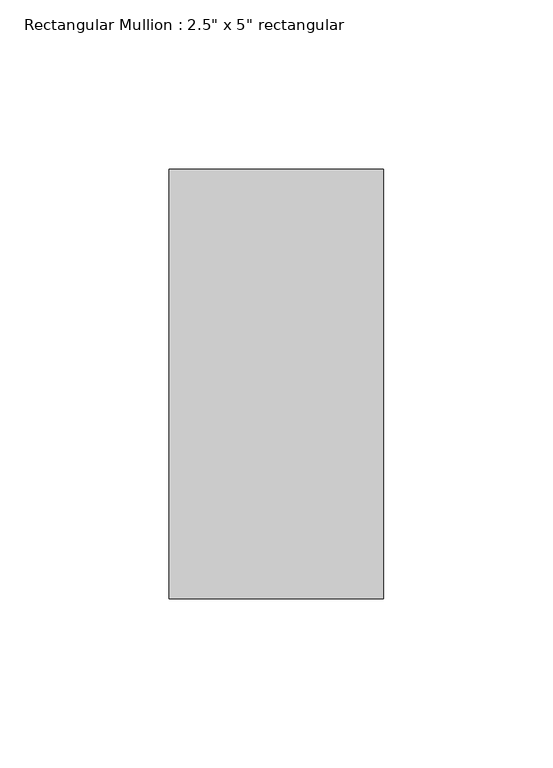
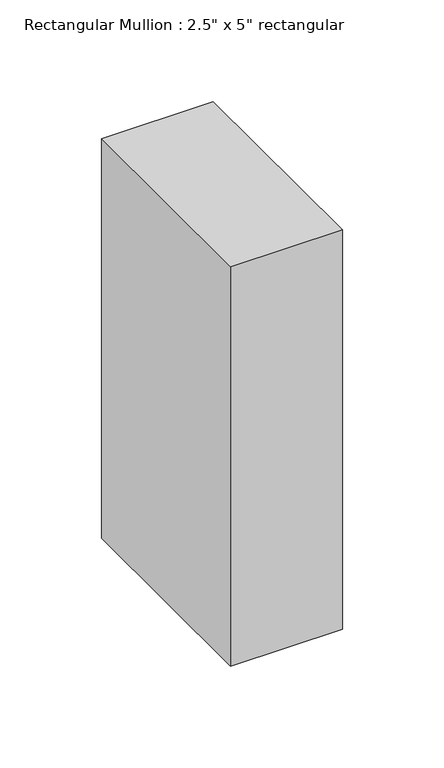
"""IFC4 building model written with IfcOpenShell, lengths in millimetres: member geometry."""

from ifc_helpers import new_model, si_unit, frame, origin, place, context, project, spatial, polyline, outline, extrude, source, transform, mapped, element, save


def member_c164950c(model_context):
    return source(origin(), model_context, "Body", "SweptSolid", [
        extrude(outline(polyline([(31.75, 63.5), (31.75, -63.5), (-31.75, -63.5), (-31.75, 63.5), (31.75, 63.5)])), frame((0.0, 0.0, -239.8422338), z_axis=(0.0, 0.0, 1.0), x_axis=(1.0, 0.0, 0.0)), (0.0, 0.0, 1.0), 239.8422338),
    ])


if __name__ == "__main__":
    model = new_model("IFC4")
    model_context = context("Model", 3, world=origin())
    ifc_project = project(units=[si_unit("LENGTHUNIT", "METRE", prefix="MILLI")], contexts=[model_context])
    site = spatial("IfcSite", under=ifc_project)
    building = spatial("IfcBuilding", under=site)
    placement = place(None, origin())
    member_shape = member_c164950c(model_context)
    element("IfcMember", 1, ObjectType="Rectangular Mullion : 2.5\" x 5\" rectangular", at=placement, inside=building, context=model_context, shape_type="MappedRepresentation", body=[
        mapped(member_shape, transform((0.0, 0.0, 0.0), x_axis=(1.0, 0.0, 0.0), y_axis=(0.0, 1.0, 0.0), z_axis=(0.0, 0.0, 1.0))),
    ])
    save(model, "model.ifc")
